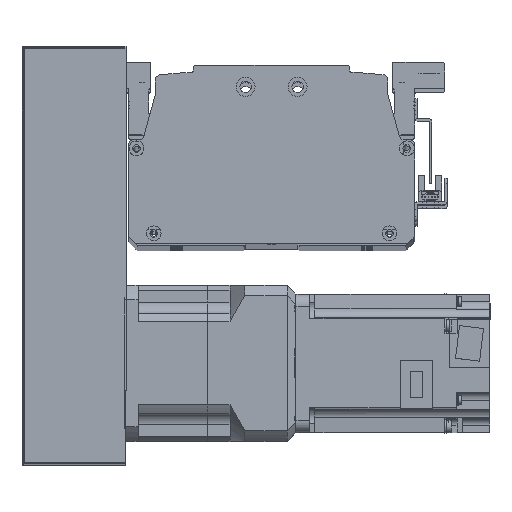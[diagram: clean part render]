
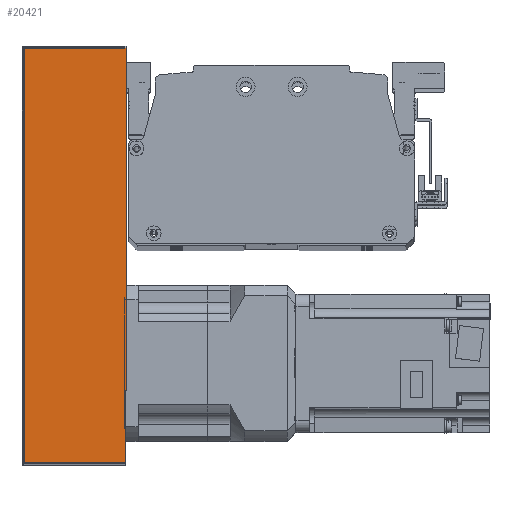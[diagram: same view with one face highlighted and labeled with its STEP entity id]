
A CAD part, top view. The second image highlights one B-rep face of the part: STEP entity #20421.
In plain terms, the highlighted planar face has unit normal (0, 0, 1) as drawn and (0, 1, 0) by its records, which use the part's own axes.
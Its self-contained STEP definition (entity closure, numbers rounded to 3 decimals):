
#607=PLANE('',#22307);
#1735=LINE('',#32885,#3395);
#1757=LINE('',#32978,#3417);
#1759=LINE('',#32988,#3419);
#1761=LINE('',#32991,#3421);
#3395=VECTOR('',#26640,10.);
#3417=VECTOR('',#26760,10.);
#3419=VECTOR('',#26774,10.);
#3421=VECTOR('',#26778,10.);
#5472=FACE_OUTER_BOUND('',#6968,.T.);
#6968=EDGE_LOOP('',(#16594,#16595,#16596,#16597));
#9906=VERTEX_POINT('',#32882);
#9907=VERTEX_POINT('',#32884);
#9928=VERTEX_POINT('',#32972);
#9931=VERTEX_POINT('',#32984);
#12300=EDGE_CURVE('',#9906,#9907,#1735,.T.);
#12348=EDGE_CURVE('',#9928,#9906,#1757,.T.);
#12353=EDGE_CURVE('',#9907,#9931,#1759,.T.);
#12355=EDGE_CURVE('',#9931,#9928,#1761,.T.);
#16594=ORIENTED_EDGE('',*,*,#12348,.F.);
#16595=ORIENTED_EDGE('',*,*,#12355,.F.);
#16596=ORIENTED_EDGE('',*,*,#12353,.F.);
#16597=ORIENTED_EDGE('',*,*,#12300,.F.);
#20421=ADVANCED_FACE('',(#5472),#607,.T.);
#22307=AXIS2_PLACEMENT_3D('',#32997,#26786,#26787);
#26640=DIRECTION('',(-1.,0.,0.));
#26760=DIRECTION('',(0.,0.,1.));
#26774=DIRECTION('',(0.,0.,-1.));
#26778=DIRECTION('',(1.,0.,0.));
#26786=DIRECTION('center_axis',(0.,1.,0.));
#26787=DIRECTION('ref_axis',(-1.,0.,0.));
#32882=CARTESIAN_POINT('',(120.,51.,30.));
#32884=CARTESIAN_POINT('',(-120.,51.,30.));
#32885=CARTESIAN_POINT('',(-121.,51.,30.));
#32972=CARTESIAN_POINT('',(120.,51.,-29.));
#32978=CARTESIAN_POINT('',(120.,51.,0.));
#32984=CARTESIAN_POINT('',(-120.,51.,-29.));
#32988=CARTESIAN_POINT('',(-120.,51.,0.));
#32991=CARTESIAN_POINT('',(60.5,51.,-29.));
#32997=CARTESIAN_POINT('Origin',(121.,51.,0.));
